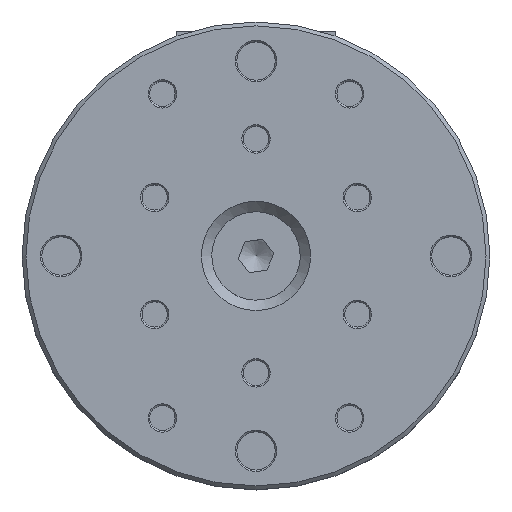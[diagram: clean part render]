
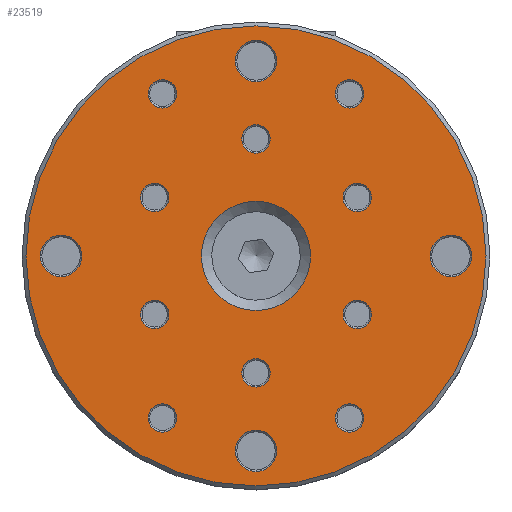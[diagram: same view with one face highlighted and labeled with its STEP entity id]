
A CAD part, top view. The second image highlights one B-rep face of the part: STEP entity #23519.
In plain terms, the highlighted planar face has unit normal (0, 0, 1).
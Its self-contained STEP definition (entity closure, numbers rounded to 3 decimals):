
#493=FACE_BOUND('',#3835,.T.);
#494=FACE_BOUND('',#3836,.T.);
#495=FACE_BOUND('',#3837,.T.);
#496=FACE_BOUND('',#3838,.T.);
#497=FACE_BOUND('',#3839,.T.);
#498=FACE_BOUND('',#3840,.T.);
#499=FACE_BOUND('',#3841,.T.);
#500=FACE_BOUND('',#3842,.T.);
#501=FACE_BOUND('',#3843,.T.);
#502=FACE_BOUND('',#3844,.T.);
#503=FACE_BOUND('',#3845,.T.);
#504=FACE_BOUND('',#3846,.T.);
#505=FACE_BOUND('',#3847,.T.);
#506=FACE_BOUND('',#3848,.T.);
#507=FACE_BOUND('',#3849,.T.);
#1254=CIRCLE('',#25582,2.659);
#1257=CIRCLE('',#25586,29.5);
#1258=CIRCLE('',#25587,2.659);
#1259=CIRCLE('',#25588,2.659);
#1260=CIRCLE('',#25589,1.821);
#1261=CIRCLE('',#25590,1.821);
#1262=CIRCLE('',#25591,1.821);
#1263=CIRCLE('',#25592,1.821);
#1264=CIRCLE('',#25593,1.821);
#1265=CIRCLE('',#25594,7.);
#1266=CIRCLE('',#25595,1.821);
#1267=CIRCLE('',#25596,1.821);
#1268=CIRCLE('',#25597,1.821);
#1269=CIRCLE('',#25598,1.821);
#1270=CIRCLE('',#25599,1.821);
#1271=CIRCLE('',#25600,2.659);
#2506=FACE_OUTER_BOUND('',#3834,.T.);
#3834=EDGE_LOOP('',(#20699));
#3835=EDGE_LOOP('',(#20700));
#3836=EDGE_LOOP('',(#20701));
#3837=EDGE_LOOP('',(#20702));
#3838=EDGE_LOOP('',(#20703));
#3839=EDGE_LOOP('',(#20704));
#3840=EDGE_LOOP('',(#20705));
#3841=EDGE_LOOP('',(#20706));
#3842=EDGE_LOOP('',(#20707));
#3843=EDGE_LOOP('',(#20708));
#3844=EDGE_LOOP('',(#20709));
#3845=EDGE_LOOP('',(#20710));
#3846=EDGE_LOOP('',(#20711));
#3847=EDGE_LOOP('',(#20712));
#3848=EDGE_LOOP('',(#20713));
#3849=EDGE_LOOP('',(#20714));
#10948=VERTEX_POINT('',#38959);
#10951=VERTEX_POINT('',#38967);
#10952=VERTEX_POINT('',#38969);
#10953=VERTEX_POINT('',#38971);
#10954=VERTEX_POINT('',#38973);
#10955=VERTEX_POINT('',#38975);
#10956=VERTEX_POINT('',#38977);
#10957=VERTEX_POINT('',#38979);
#10958=VERTEX_POINT('',#38981);
#10959=VERTEX_POINT('',#38983);
#10960=VERTEX_POINT('',#38985);
#10961=VERTEX_POINT('',#38987);
#10962=VERTEX_POINT('',#38989);
#10963=VERTEX_POINT('',#38991);
#10964=VERTEX_POINT('',#38993);
#10965=VERTEX_POINT('',#38995);
#14239=EDGE_CURVE('',#10948,#10948,#1254,.T.);
#14243=EDGE_CURVE('',#10951,#10951,#1257,.T.);
#14244=EDGE_CURVE('',#10952,#10952,#1258,.T.);
#14245=EDGE_CURVE('',#10953,#10953,#1259,.T.);
#14246=EDGE_CURVE('',#10954,#10954,#1260,.T.);
#14247=EDGE_CURVE('',#10955,#10955,#1261,.T.);
#14248=EDGE_CURVE('',#10956,#10956,#1262,.T.);
#14249=EDGE_CURVE('',#10957,#10957,#1263,.T.);
#14250=EDGE_CURVE('',#10958,#10958,#1264,.T.);
#14251=EDGE_CURVE('',#10959,#10959,#1265,.T.);
#14252=EDGE_CURVE('',#10960,#10960,#1266,.T.);
#14253=EDGE_CURVE('',#10961,#10961,#1267,.T.);
#14254=EDGE_CURVE('',#10962,#10962,#1268,.T.);
#14255=EDGE_CURVE('',#10963,#10963,#1269,.T.);
#14256=EDGE_CURVE('',#10964,#10964,#1270,.T.);
#14257=EDGE_CURVE('',#10965,#10965,#1271,.T.);
#20699=ORIENTED_EDGE('',*,*,#14243,.F.);
#20700=ORIENTED_EDGE('',*,*,#14244,.F.);
#20701=ORIENTED_EDGE('',*,*,#14245,.F.);
#20702=ORIENTED_EDGE('',*,*,#14246,.F.);
#20703=ORIENTED_EDGE('',*,*,#14247,.F.);
#20704=ORIENTED_EDGE('',*,*,#14248,.F.);
#20705=ORIENTED_EDGE('',*,*,#14249,.F.);
#20706=ORIENTED_EDGE('',*,*,#14250,.F.);
#20707=ORIENTED_EDGE('',*,*,#14251,.F.);
#20708=ORIENTED_EDGE('',*,*,#14252,.F.);
#20709=ORIENTED_EDGE('',*,*,#14253,.F.);
#20710=ORIENTED_EDGE('',*,*,#14254,.F.);
#20711=ORIENTED_EDGE('',*,*,#14255,.F.);
#20712=ORIENTED_EDGE('',*,*,#14256,.F.);
#20713=ORIENTED_EDGE('',*,*,#14257,.F.);
#20714=ORIENTED_EDGE('',*,*,#14239,.F.);
#22356=PLANE('',#25585);
#23519=ADVANCED_FACE('',(#2506,#493,#494,#495,#496,#497,#498,#499,#500,
#501,#502,#503,#504,#505,#506,#507),#22356,.T.);
#25582=AXIS2_PLACEMENT_3D('',#38960,#31465,#31466);
#25585=AXIS2_PLACEMENT_3D('',#38966,#31472,#31473);
#25586=AXIS2_PLACEMENT_3D('',#38968,#31474,#31475);
#25587=AXIS2_PLACEMENT_3D('',#38970,#31476,#31477);
#25588=AXIS2_PLACEMENT_3D('',#38972,#31478,#31479);
#25589=AXIS2_PLACEMENT_3D('',#38974,#31480,#31481);
#25590=AXIS2_PLACEMENT_3D('',#38976,#31482,#31483);
#25591=AXIS2_PLACEMENT_3D('',#38978,#31484,#31485);
#25592=AXIS2_PLACEMENT_3D('',#38980,#31486,#31487);
#25593=AXIS2_PLACEMENT_3D('',#38982,#31488,#31489);
#25594=AXIS2_PLACEMENT_3D('',#38984,#31490,#31491);
#25595=AXIS2_PLACEMENT_3D('',#38986,#31492,#31493);
#25596=AXIS2_PLACEMENT_3D('',#38988,#31494,#31495);
#25597=AXIS2_PLACEMENT_3D('',#38990,#31496,#31497);
#25598=AXIS2_PLACEMENT_3D('',#38992,#31498,#31499);
#25599=AXIS2_PLACEMENT_3D('',#38994,#31500,#31501);
#25600=AXIS2_PLACEMENT_3D('',#38996,#31502,#31503);
#31465=DIRECTION('center_axis',(0.,0.,1.));
#31466=DIRECTION('ref_axis',(-1.,0.,0.));
#31472=DIRECTION('center_axis',(0.,0.,1.));
#31473=DIRECTION('ref_axis',(1.,0.,0.));
#31474=DIRECTION('center_axis',(0.,0.,-1.));
#31475=DIRECTION('ref_axis',(-1.,0.,0.));
#31476=DIRECTION('center_axis',(0.,0.,1.));
#31477=DIRECTION('ref_axis',(-1.,0.,0.));
#31478=DIRECTION('center_axis',(0.,0.,1.));
#31479=DIRECTION('ref_axis',(-1.,0.,0.));
#31480=DIRECTION('center_axis',(0.,0.,1.));
#31481=DIRECTION('ref_axis',(-1.,0.,0.));
#31482=DIRECTION('center_axis',(0.,0.,1.));
#31483=DIRECTION('ref_axis',(-1.,0.,0.));
#31484=DIRECTION('center_axis',(0.,0.,1.));
#31485=DIRECTION('ref_axis',(-1.,0.,0.));
#31486=DIRECTION('center_axis',(0.,0.,1.));
#31487=DIRECTION('ref_axis',(-1.,0.,0.));
#31488=DIRECTION('center_axis',(0.,0.,1.));
#31489=DIRECTION('ref_axis',(-1.,0.,0.));
#31490=DIRECTION('center_axis',(0.,0.,1.));
#31491=DIRECTION('ref_axis',(-1.,0.,0.));
#31492=DIRECTION('center_axis',(0.,0.,1.));
#31493=DIRECTION('ref_axis',(-1.,0.,0.));
#31494=DIRECTION('center_axis',(0.,0.,1.));
#31495=DIRECTION('ref_axis',(-1.,0.,0.));
#31496=DIRECTION('center_axis',(0.,0.,1.));
#31497=DIRECTION('ref_axis',(-1.,0.,0.));
#31498=DIRECTION('center_axis',(0.,0.,1.));
#31499=DIRECTION('ref_axis',(-1.,0.,0.));
#31500=DIRECTION('center_axis',(0.,0.,1.));
#31501=DIRECTION('ref_axis',(-1.,0.,0.));
#31502=DIRECTION('center_axis',(0.,0.,1.));
#31503=DIRECTION('ref_axis',(-1.,0.,0.));
#38959=CARTESIAN_POINT('',(2.659,-25.,10.));
#38960=CARTESIAN_POINT('Origin',(0.,-25.,10.));
#38966=CARTESIAN_POINT('Origin',(0.,0.,
10.));
#38967=CARTESIAN_POINT('',(29.5,0.,10.));
#38968=CARTESIAN_POINT('Origin',(0.,0.,10.));
#38969=CARTESIAN_POINT('',(-22.342,0.,10.));
#38970=CARTESIAN_POINT('Origin',(-25.,0.,10.));
#38971=CARTESIAN_POINT('',(27.659,0.,10.));
#38972=CARTESIAN_POINT('Origin',(25.,0.,10.));
#38973=CARTESIAN_POINT('',(14.811,-7.5,10.));
#38974=CARTESIAN_POINT('Origin',(12.99,-7.5,10.));
#38975=CARTESIAN_POINT('',(1.821,-15.,10.));
#38976=CARTESIAN_POINT('Origin',(0.,-15.,10.));
#38977=CARTESIAN_POINT('',(-11.169,-7.5,10.));
#38978=CARTESIAN_POINT('Origin',(-12.99,-7.5,10.));
#38979=CARTESIAN_POINT('',(-10.179,20.785,10.));
#38980=CARTESIAN_POINT('Origin',(-12.,20.785,10.));
#38981=CARTESIAN_POINT('',(13.821,20.785,10.));
#38982=CARTESIAN_POINT('Origin',(12.,20.785,10.));
#38983=CARTESIAN_POINT('',(7.,0.,10.));
#38984=CARTESIAN_POINT('Origin',(0.,0.,10.));
#38985=CARTESIAN_POINT('',(1.821,15.,10.));
#38986=CARTESIAN_POINT('Origin',(0.,15.,10.));
#38987=CARTESIAN_POINT('',(-11.169,7.5,10.));
#38988=CARTESIAN_POINT('Origin',(-12.99,7.5,10.));
#38989=CARTESIAN_POINT('',(-10.179,-20.785,10.));
#38990=CARTESIAN_POINT('Origin',(-12.,-20.785,10.));
#38991=CARTESIAN_POINT('',(13.821,-20.785,10.));
#38992=CARTESIAN_POINT('Origin',(12.,-20.785,10.));
#38993=CARTESIAN_POINT('',(14.811,7.5,10.));
#38994=CARTESIAN_POINT('Origin',(12.99,7.5,10.));
#38995=CARTESIAN_POINT('',(2.659,25.,10.));
#38996=CARTESIAN_POINT('Origin',(0.,25.,10.));
